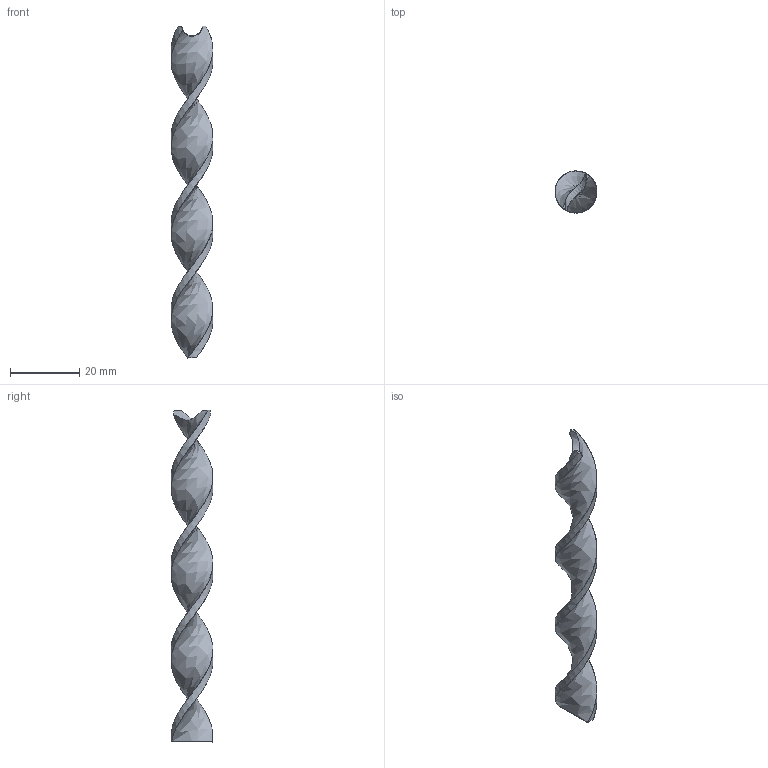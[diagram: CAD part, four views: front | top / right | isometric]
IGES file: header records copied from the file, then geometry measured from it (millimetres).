
Global section: file name: E:\UnigraphicsGraphicData\MISUMI_MOLD-PARTS\NX\3d_wrcbn12-96_00642_r00.igs; native system: NX V5.0; preprocessor: UGS NX IGES V5.0; author: MISUMI; date: 20101115.183652; units: millimetre
Bounding box: 12.1 x 12.1 x 96 mm (x, y, z)
Surface area: 2965.6 mm2 (no closed solid volume)
Topology: 0 solids, 0 shells, 8 faces, 48 edges, 48 vertices
Faces by surface type: bspline 8
